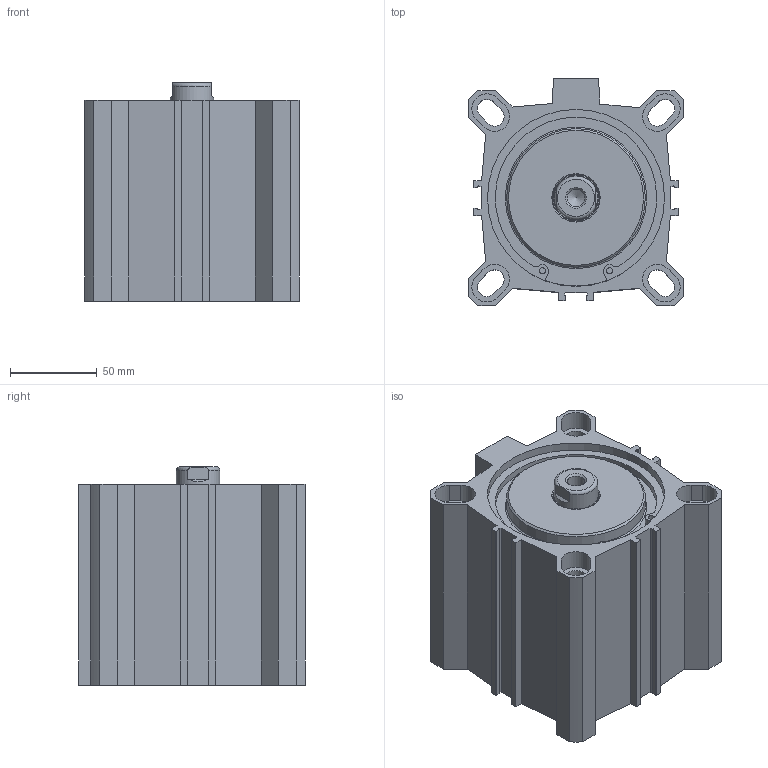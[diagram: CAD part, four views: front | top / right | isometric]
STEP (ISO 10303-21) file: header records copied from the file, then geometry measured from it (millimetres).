
FILE_DESCRIPTION(/* description */ ('Unknown'),/* implementation_level */ '2;1');
FILE_NAME(/* name */ 'FEN 100_50',/* time_stamp */ '2026-05-11T14:43:39+02:00',/* author */ ('Unknown'),/* organization */ ('Unknown'),/* preprocessor_version */ 'ST-DEVELOPER v18.102',/* originating_system */ 'Solid Edge',/* authorisation */ 'Unknown');
FILE_SCHEMA (('AUTOMOTIVE_DESIGN {1 0 10303 214 3 1 1}'));
Length unit declared in the file: millimetre
Products named in the file (5): FEN 100_50; Kolbenstange; Profilrohr; Kit_1; Kit_2
Assembly tree (4 placements, depth 2):
  FEN 100_50
    Kolbenstange
    Profilrohr
    Kit_1
    Kit_2
Bounding box: 124 x 131 x 126 mm (x, y, z)
Volume: 984511.8 mm3; surface area: 223947.3 mm2
Topology: 4 solids, 4 shells, 256 faces, 645 edges, 419 vertices
Faces by surface type: plane 130, cylinder 94, cone 22, torus 10
Full cylindrical faces by diameter (mm): 3.5 x4, 5.25 x2, 10.106 x2, 11.445 x4, 25 x1, 25.6 x1, 26.9 x1, 28 x1, 29.8 x1, 30 x1, 80 x2, 100 x2, 101.7 x4, 102.2 x2, 106.2 x2
Entity records: 9334 total; most frequent: CARTESIAN_POINT 1402, DIRECTION 1300, ORIENTED_EDGE 1144, EDGE_CURVE 572, AXIS2_PLACEMENT_3D 479, VERTEX_POINT 407, FACE_BOUND 355, EDGE_LOOP 354
